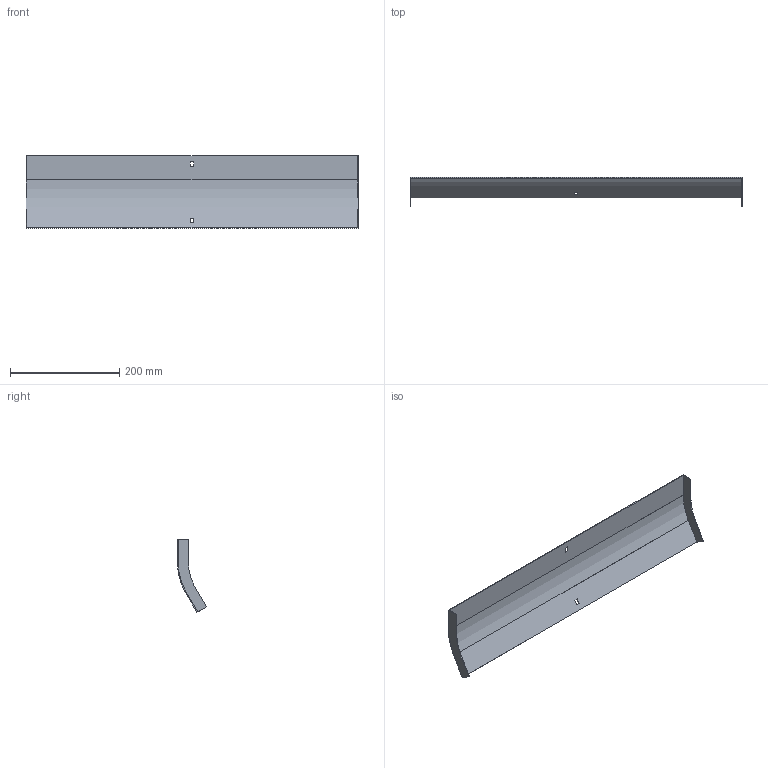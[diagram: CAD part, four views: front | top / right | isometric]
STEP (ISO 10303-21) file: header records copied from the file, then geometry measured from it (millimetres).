
FILE_DESCRIPTION (( 'STEP AP214' ), '1' );
FILE_NAME ('35G1B600.step', '2025-02-21T12:41:39', ( '' ), ( '' ), 'SwSTEP 2.0', 'SolidWorks 2023', '' );
FILE_SCHEMA (( 'AUTOMOTIVE_DESIGN' ));
Length unit declared in the file: millimetre
Products named in the file (1): 35G1B600
Bounding box: 607 x 52.92 x 132.86 mm (x, y, z)
Volume: 135500.9 mm3; surface area: 183086.1 mm2
Topology: 1 solids, 1 shells, 26 faces, 72 edges, 48 vertices
Faces by surface type: plane 22, cylinder 4
Entity records: 855 total; most frequent: CARTESIAN_POINT 147, ORIENTED_EDGE 144, DIRECTION 134, EDGE_CURVE 72, LINE 64, VECTOR 64, VERTEX_POINT 48, AXIS2_PLACEMENT_3D 35
